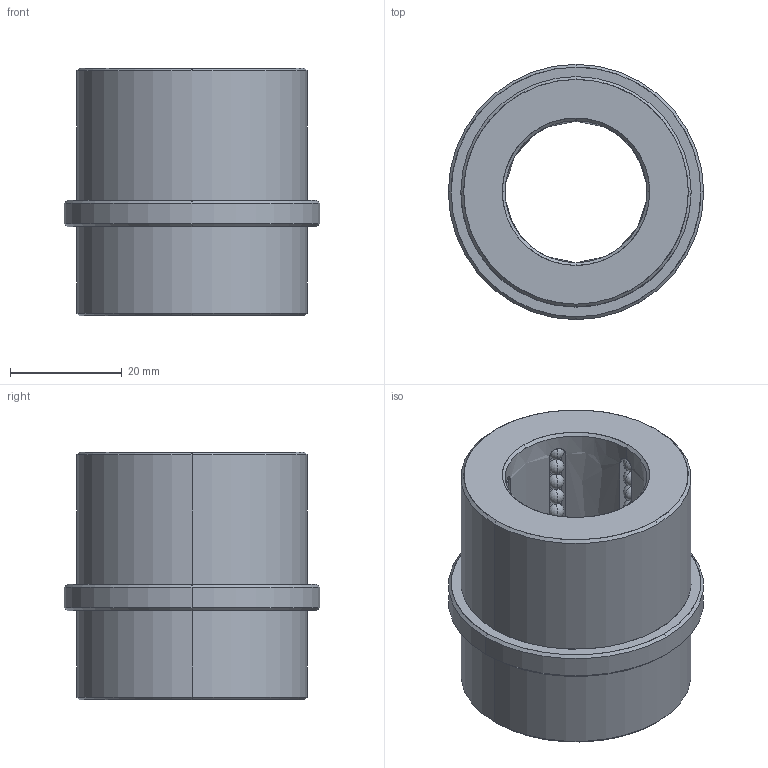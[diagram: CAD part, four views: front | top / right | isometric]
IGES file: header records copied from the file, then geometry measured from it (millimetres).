
Start section: START RECORD GO HERE.
Global section: file name: BGEB1000.igs; native system: DASSAULT SYSTEMES CATIA V5 R20 - www.3ds.com; preprocessor: CATIA Version 5 Release 20 ; author: Utente; organization: NB04-ASUS; date: 20200419.195512; units: millimetre
Bounding box: 45.77 x 45.77 x 44.45 mm (x, y, z)
Surface area: 14907.3 mm2 (no closed solid volume)
Topology: 0 solids, 0 shells, 354 faces, 1476 edges, 900 vertices
Faces by surface type: revolution 332, plane 22
